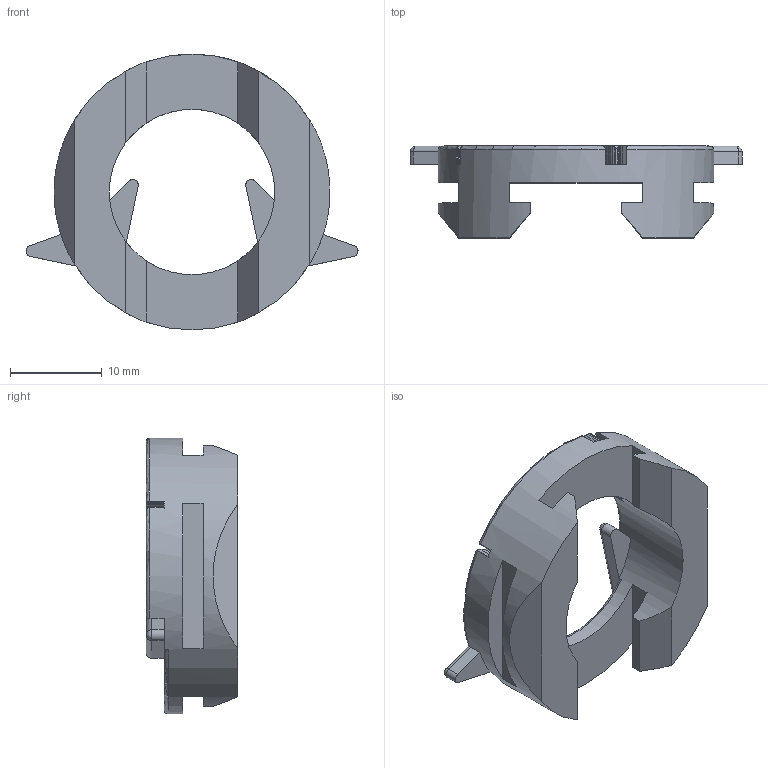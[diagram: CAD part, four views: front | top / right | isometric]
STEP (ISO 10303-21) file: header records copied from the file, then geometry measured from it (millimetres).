
FILE_DESCRIPTION(/* description */ (''),/* implementation_level */ '2;1');
FILE_NAME(/* name */ '//nas_appart/home/Documents/Impression_3D/Bed_Levelling_Reminder_2040/Reminder_Up_Down v2.step',/* time_stamp */ '2018-10-04T13:43:38+02:00',/* author */ ('grgs.roussel'),/* organization */ (''),/* preprocessor_version */ 'ST-DEVELOPER v17.2',/* originating_system */ 'Autodesk Translation Framework v7.6.0.251',/* authorisation */ '');
FILE_SCHEMA (('AUTOMOTIVE_DESIGN { 1 0 10303 214 3 1 1 }'));
Length unit declared in the file: millimetre
Products named in the file (1): Reminder_Up_Down
Bounding box: 36.11 x 10 x 30 mm (x, y, z)
Volume: 3098.7 mm3; surface area: 2714.3 mm2
Topology: 1 solids, 1 shells, 492 faces, 1413 edges, 920 vertices
Faces by surface type: bspline 368, plane 83, cylinder 21, torus 14, sphere 6
Full cylindrical faces by diameter (mm): 18 x1, 30 x1
Entity records: 19964 total; most frequent: CARTESIAN_POINT 9607, ORIENTED_EDGE 2826, EDGE_CURVE 1413, DIRECTION 1006, VERTEX_POINT 920, B_SPLINE_CURVE_WITH_KNOTS 772, LINE 526, VECTOR 526
